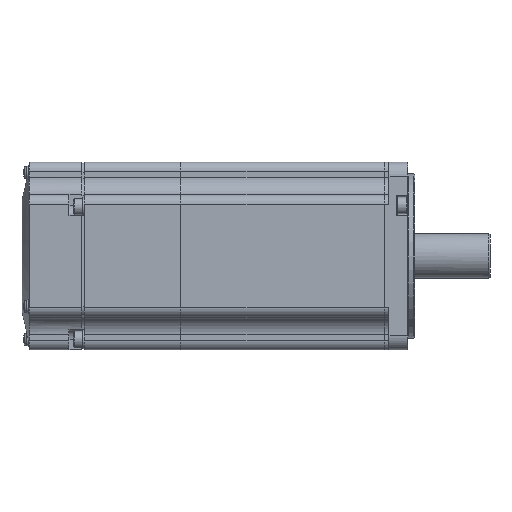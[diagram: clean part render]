
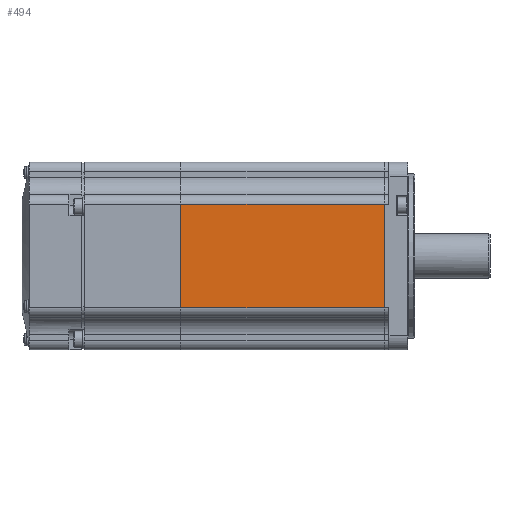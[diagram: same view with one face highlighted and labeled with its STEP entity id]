
A CAD part, front view. The second image highlights one B-rep face of the part: STEP entity #494.
In plain terms, the highlighted planar face has unit normal (0, -1, 0).
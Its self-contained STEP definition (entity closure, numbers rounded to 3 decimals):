
#494 = ADVANCED_FACE( '', ( #1531 ), #1532, .F. );
#1531 = FACE_OUTER_BOUND( '', #3568, .T. );
#1532 = PLANE( '', #3569 );
#3568 = EDGE_LOOP( '', ( #6340, #6341, #6342, #6343 ) );
#3569 = AXIS2_PLACEMENT_3D( '', #6344, #6345, #6346 );
#6340 = ORIENTED_EDGE( '', *, *, #12830, .F. );
#6341 = ORIENTED_EDGE( '', *, *, #12940, .T. );
#6342 = ORIENTED_EDGE( '', *, *, #12822, .T. );
#6343 = ORIENTED_EDGE( '', *, *, #12941, .F. );
#6344 = CARTESIAN_POINT( '', ( 8., -40., 34. ) );
#6345 = DIRECTION( '', ( 0., 1., 0. ) );
#6346 = DIRECTION( '', ( 0., 0., 1. ) );
#12822 = EDGE_CURVE( '', #15186, #15188, #15190, .T. );
#12830 = EDGE_CURVE( '', #15201, #15204, #15205, .T. );
#12940 = EDGE_CURVE( '', #15201, #15186, #15385, .T. );
#12941 = EDGE_CURVE( '', #15204, #15188, #15386, .T. );
#15186 = VERTEX_POINT( '', #19052 );
#15188 = VERTEX_POINT( '', #19054 );
#15190 = LINE( '', #19056, #19057 );
#15201 = VERTEX_POINT( '', #19073 );
#15204 = VERTEX_POINT( '', #19076 );
#15205 = LINE( '', #19077, #19078 );
#15385 = LINE( '', #19333, #19334 );
#15386 = LINE( '', #19335, #19336 );
#19052 = CARTESIAN_POINT( '', ( -88.65, -40., -22. ) );
#19054 = CARTESIAN_POINT( '', ( -1.85, -40., -22. ) );
#19056 = CARTESIAN_POINT( '', ( -153.2, -40., -22. ) );
#19057 = VECTOR( '', #24345, 1000. );
#19073 = CARTESIAN_POINT( '', ( -88.65, -40., 22. ) );
#19076 = CARTESIAN_POINT( '', ( -1.85, -40., 22. ) );
#19077 = CARTESIAN_POINT( '', ( -153.2, -40., 22. ) );
#19078 = VECTOR( '', #24357, 1000. );
#19333 = CARTESIAN_POINT( '', ( -88.65, -40., 34. ) );
#19334 = VECTOR( '', #24535, 1000. );
#19335 = CARTESIAN_POINT( '', ( -1.85, -40., 34. ) );
#19336 = VECTOR( '', #24536, 1000. );
#24345 = DIRECTION( '', ( 1., 0., 0. ) );
#24357 = DIRECTION( '', ( 1., 0., 0. ) );
#24535 = DIRECTION( '', ( 0., 0., -1. ) );
#24536 = DIRECTION( '', ( 0., 0., -1. ) );
